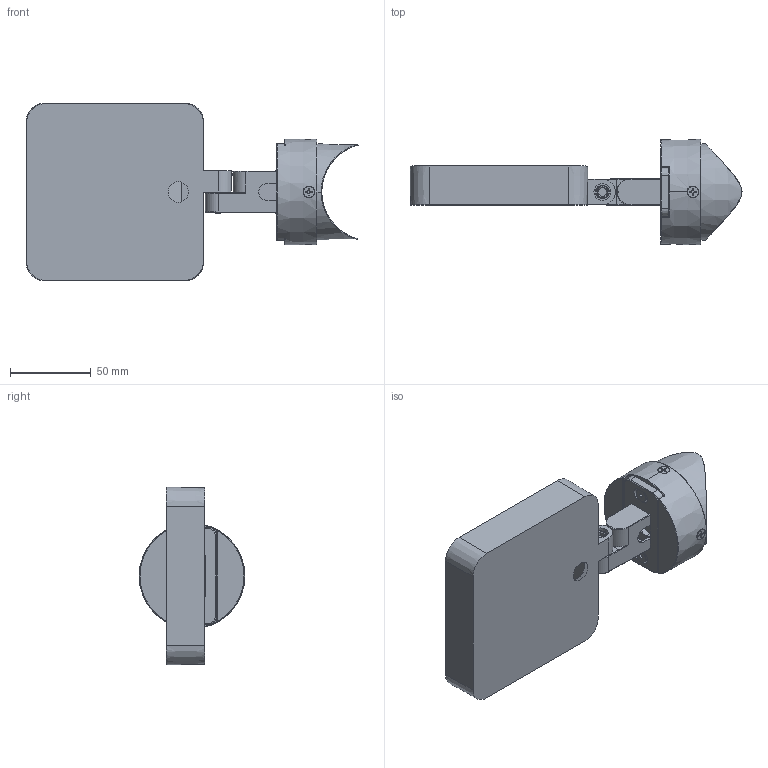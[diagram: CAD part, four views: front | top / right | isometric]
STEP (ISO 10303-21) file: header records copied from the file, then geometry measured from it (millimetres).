
FILE_DESCRIPTION((''),'2;1');
FILE_NAME('TAG110-PALO60-SIDE_SW0001','2025-07-28T15:14:53',('Piccioli'),(''),'CREO PARAMETRIC BY PTC INC, 2025010','CREO PARAMETRIC BY PTC INC, 2025010','');
FILE_SCHEMA(('CONFIG_CONTROL_DESIGN'));
Length unit declared in the file: millimetre
Products named in the file (1): TAG110-PALO60-SIDE_SW0001
Bounding box: 205.38 x 65.43 x 110 mm (x, y, z)
Surface area: 87384.5 mm2 (no closed solid volume)
Topology: 0 solids, 21 shells, 419 faces, 1283 edges, 864 vertices
Faces by surface type: plane 147, cone 96, cylinder 79, bspline 49, torus 44, sphere 4
Entity records: 21646 total; most frequent: CARTESIAN_POINT 10637, DIRECTION 2272, ORIENTED_EDGE 2112, EDGE_CURVE 1283, VERTEX_POINT 864, AXIS2_PLACEMENT_3D 837, VECTOR 598, LINE 598
